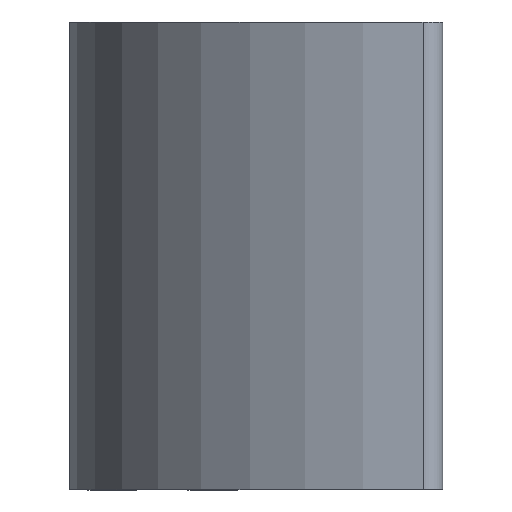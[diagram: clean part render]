
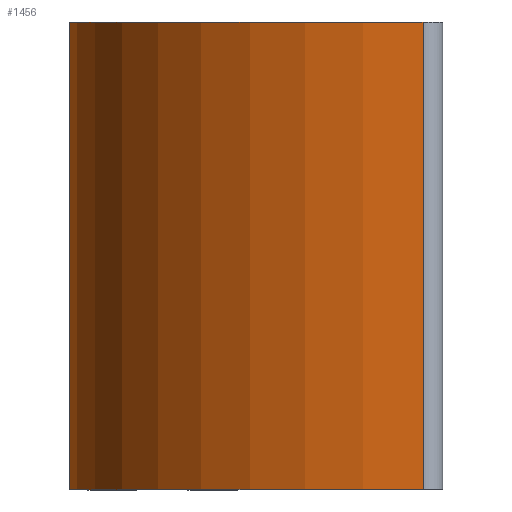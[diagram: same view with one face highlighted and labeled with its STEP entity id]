
A CAD part, top view. The second image highlights one B-rep face of the part: STEP entity #1456.
In plain terms, the highlighted cylindrical face has radius 80 mm (diameter 160 mm), a partial arc.
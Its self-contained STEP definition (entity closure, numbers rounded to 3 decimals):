
#57 = ORIENTED_EDGE ( 'NONE', *, *, #3887, .T. ) ;
#104 = EDGE_CURVE ( 'NONE', #5048, #144, #3873, .T. ) ;
#144 = VERTEX_POINT ( 'NONE', #4866 ) ;
#151 = CARTESIAN_POINT ( 'NONE',  ( -37.459, 50., -38.219 ) ) ;
#203 = CARTESIAN_POINT ( 'NONE',  ( 42.43, -50., -42.43 ) ) ;
#392 = VECTOR ( 'NONE', #1738, 1000. ) ;
#440 = VERTEX_POINT ( 'NONE', #3823 ) ;
#633 = LINE ( 'NONE', #2277, #392 ) ;
#757 = EDGE_CURVE ( 'NONE', #5048, #440, #2515, .T. ) ;
#883 = ORIENTED_EDGE ( 'NONE', *, *, #104, .F. ) ;
#956 = AXIS2_PLACEMENT_3D ( 'NONE', #3448, #4658, #2635 ) ;
#987 = DIRECTION ( 'NONE',  ( 0., 1., 0. ) ) ;
#1120 = VECTOR ( 'NONE', #1817, 1000. ) ;
#1456 = ADVANCED_FACE ( 'NONE', ( #1598 ), #3236, .T. ) ;
#1490 = CARTESIAN_POINT ( 'NONE',  ( 38.219, -50., 37.459 ) ) ;
#1598 = FACE_OUTER_BOUND ( 'NONE', #3835, .T. ) ;
#1738 = DIRECTION ( 'NONE',  ( 0., -1., 0. ) ) ;
#1817 = DIRECTION ( 'NONE',  ( 0., -1., 0. ) ) ;
#1850 = AXIS2_PLACEMENT_3D ( 'NONE', #203, #987, #3840 ) ;
#1854 = CIRCLE ( 'NONE', #1850, 80. ) ;
#1948 = DIRECTION ( 'NONE',  ( 0., -1., 0. ) ) ;
#2277 = CARTESIAN_POINT ( 'NONE',  ( 38.219, 50., 37.459 ) ) ;
#2515 = LINE ( 'NONE', #151, #1120 ) ;
#2635 = DIRECTION ( 'NONE',  ( 0., 0., 1. ) ) ;
#3204 = CARTESIAN_POINT ( 'NONE',  ( 42.43, 50., -42.43 ) ) ;
#3228 = VERTEX_POINT ( 'NONE', #1490 ) ;
#3236 = CYLINDRICAL_SURFACE ( 'NONE', #3264, 80. ) ;
#3264 = AXIS2_PLACEMENT_3D ( 'NONE', #3204, #1948, #4867 ) ;
#3281 = ORIENTED_EDGE ( 'NONE', *, *, #757, .T. ) ;
#3448 = CARTESIAN_POINT ( 'NONE',  ( 42.43, 50., -42.43 ) ) ;
#3823 = CARTESIAN_POINT ( 'NONE',  ( -37.459, -50., -38.219 ) ) ;
#3835 = EDGE_LOOP ( 'NONE', ( #57, #4064, #883, #3281 ) ) ;
#3840 = DIRECTION ( 'NONE',  ( 0., 0., 1. ) ) ;
#3873 = CIRCLE ( 'NONE', #956, 80. ) ;
#3887 = EDGE_CURVE ( 'NONE', #440, #3228, #1854, .T. ) ;
#3914 = EDGE_CURVE ( 'NONE', #144, #3228, #633, .T. ) ;
#4064 = ORIENTED_EDGE ( 'NONE', *, *, #3914, .F. ) ;
#4658 = DIRECTION ( 'NONE',  ( 0., 1., 0. ) ) ;
#4866 = CARTESIAN_POINT ( 'NONE',  ( 38.219, 50., 37.459 ) ) ;
#4867 = DIRECTION ( 'NONE',  ( 0., 0., -1. ) ) ;
#5048 = VERTEX_POINT ( 'NONE', #5288 ) ;
#5288 = CARTESIAN_POINT ( 'NONE',  ( -37.459, 50., -38.219 ) ) ;
